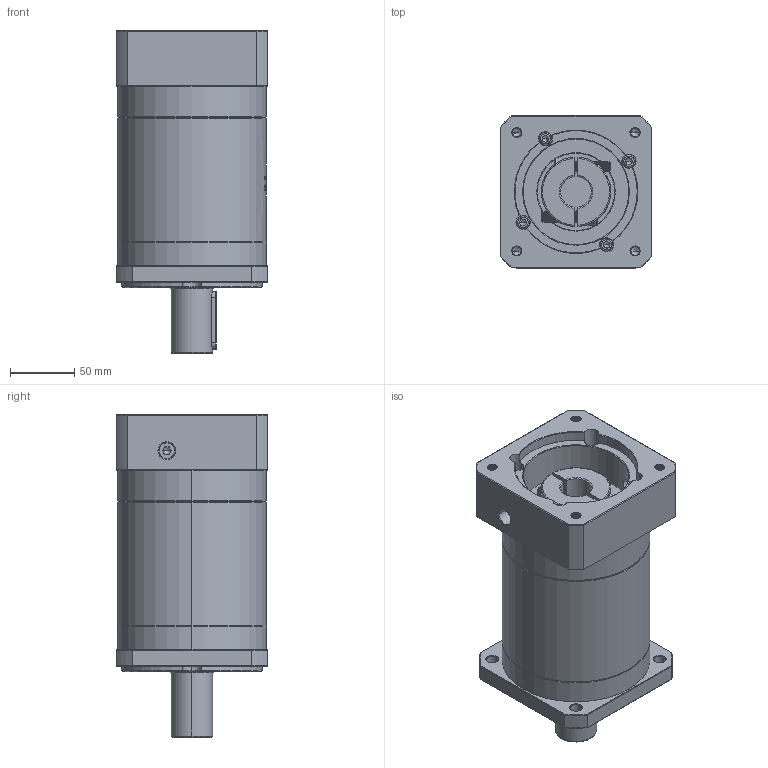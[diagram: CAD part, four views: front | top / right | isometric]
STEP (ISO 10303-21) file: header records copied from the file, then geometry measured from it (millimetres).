
FILE_DESCRIPTION (( 'STEP AP214' ), '1' );
FILE_NAME ('ZF120A-D32-L3-24-95-130-M8.step', '2023-03-07T09:35:55', ( '' ), ( '' ), 'SwSTEP 2.0', 'SolidWorks 2016', '' );
FILE_SCHEMA (( 'AUTOMOTIVE_DESIGN' ));
Length unit declared in the file: millimetre
Products named in the file (1): ZF120A-D32-L3-24-95-130-M8
Bounding box: 118 x 118 x 250.5 mm (x, y, z)
Volume: 2067621.2 mm3; surface area: 187099.3 mm2
Topology: 6 solids, 6 shells, 1950 faces, 5114 edges, 3258 vertices
Faces by surface type: plane 857, cylinder 425, cone 327, bspline 321, torus 20
Entity records: 107428 total; most frequent: CARTESIAN_POINT 41725, ORIENTED_EDGE 10168, DIRECTION 7891, EDGE_CURVE 5084, VERTEX_POINT 3258, LINE 2749, VECTOR 2749, AXIS2_PLACEMENT_3D 2571
